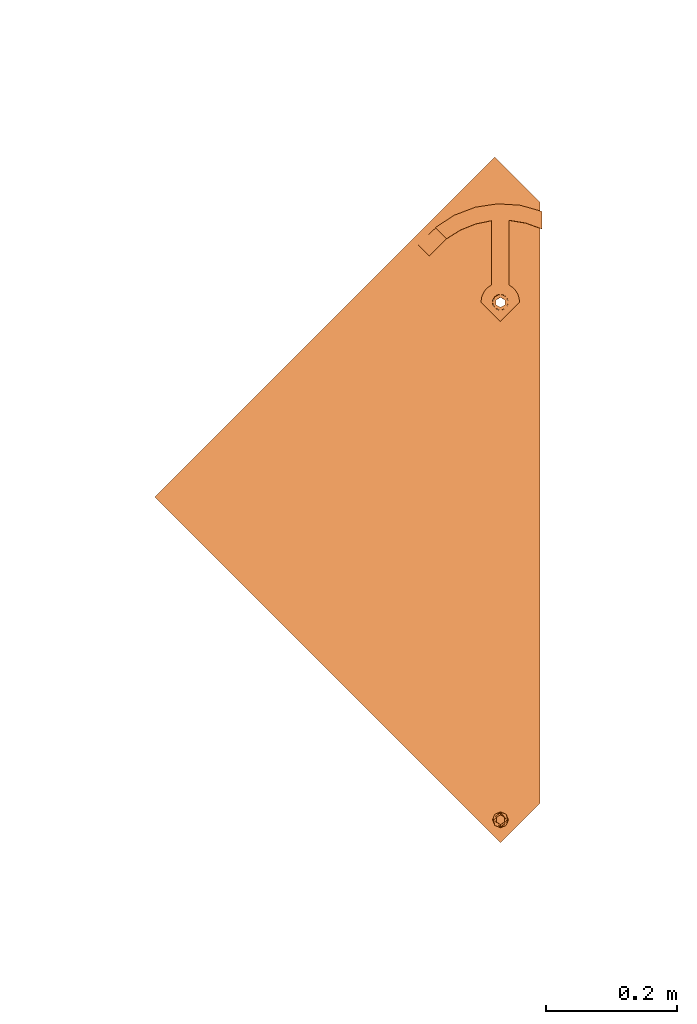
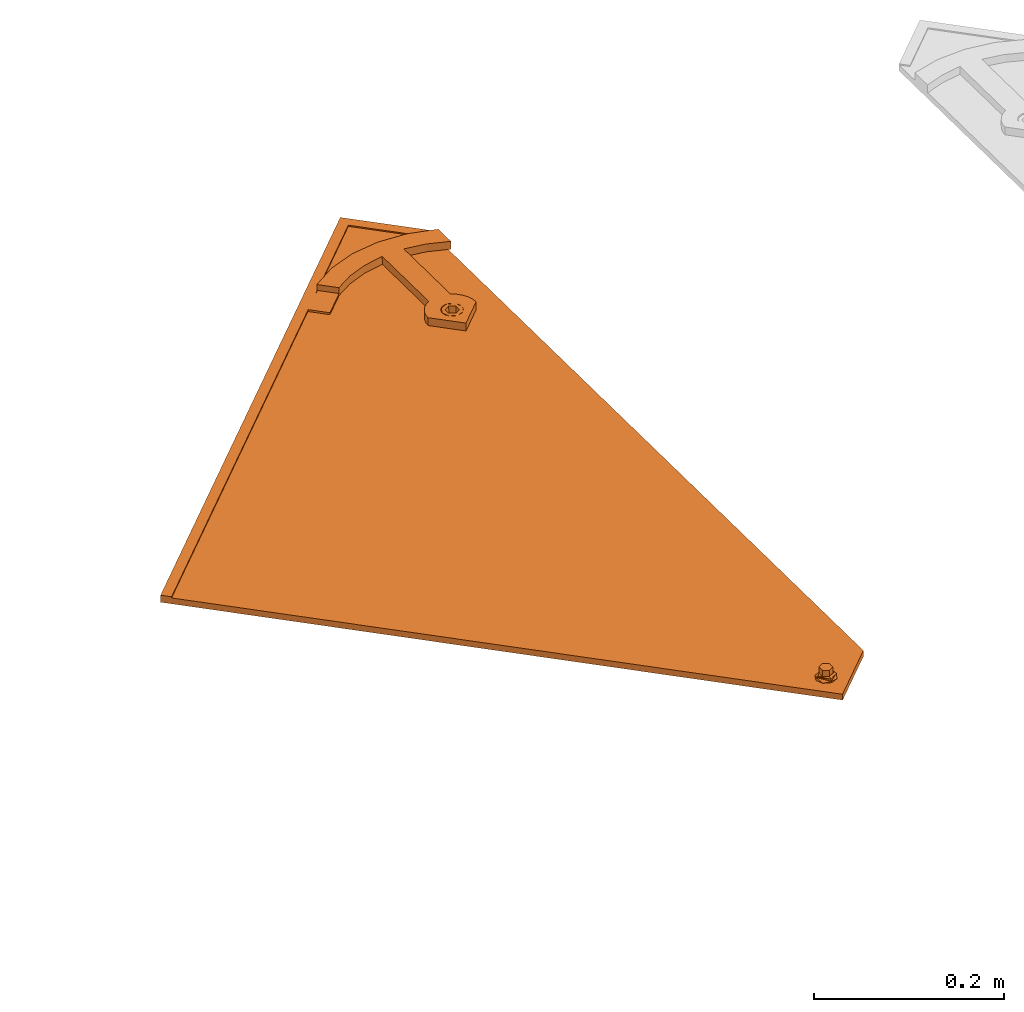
# One storey, part 93 of 133: 1 proxy.
"""IFC2X3 building model written with IfcOpenShell, lengths in millimetres."""

from ifc_helpers import new_model, entity, si_unit, converted_unit, derived_unit, direction, frame, origin, place, context, subcontext, project, spatial, faceted_brep, source, transform, mapped, material, material_list, type_object, type_shapes, element, save


model = new_model("IFC2X3")

# Units and contexts
model_context = context("Model", 3, precision=0.01, world=origin(), true_north=direction((6.12303176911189e-17, 1.0)))
body_context = subcontext(model_context, "Body", "Model", "MODEL_VIEW")
ifc_project = project(units=[si_unit("LENGTHUNIT", "METRE", prefix="MILLI"), si_unit("AREAUNIT", "SQUARE_METRE"), si_unit("VOLUMEUNIT", "CUBIC_METRE"), converted_unit("PLANEANGLEUNIT", "DEGREE", entity("IfcRatioMeasure", 0.0174532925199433), si_unit("PLANEANGLEUNIT", "RADIAN"), dimensions=[0, 0, 0, 0, 0, 0, 0]), si_unit("MASSUNIT", "GRAM", prefix="KILO"), derived_unit("MASSDENSITYUNIT", [(si_unit("MASSUNIT", "GRAM", prefix="KILO"), 1), (si_unit("LENGTHUNIT", "METRE"), -3)]), si_unit("TIMEUNIT", "SECOND"), si_unit("FREQUENCYUNIT", "HERTZ"), si_unit("THERMODYNAMICTEMPERATUREUNIT", "DEGREE_CELSIUS"), derived_unit("THERMALTRANSMITTANCEUNIT", [(si_unit("MASSUNIT", "GRAM", prefix="KILO"), 1), (si_unit("THERMODYNAMICTEMPERATUREUNIT", "KELVIN"), -1), (si_unit("TIMEUNIT", "SECOND"), -3)]), derived_unit("VOLUMETRICFLOWRATEUNIT", [(si_unit("LENGTHUNIT", "METRE"), 3), (si_unit("TIMEUNIT", "SECOND"), -1)]), si_unit("ELECTRICCURRENTUNIT", "AMPERE"), si_unit("ELECTRICVOLTAGEUNIT", "VOLT"), si_unit("POWERUNIT", "WATT"), si_unit("FORCEUNIT", "NEWTON", prefix="KILO"), si_unit("ILLUMINANCEUNIT", "LUX"), si_unit("LUMINOUSFLUXUNIT", "LUMEN"), si_unit("LUMINOUSINTENSITYUNIT", "CANDELA"), derived_unit("USERDEFINED", [(si_unit("MASSUNIT", "GRAM", prefix="KILO"), -1), (si_unit("LENGTHUNIT", "METRE"), -2), (si_unit("TIMEUNIT", "SECOND"), 3), (si_unit("LUMINOUSFLUXUNIT", "LUMEN"), 1)]), derived_unit("LINEARVELOCITYUNIT", [(si_unit("LENGTHUNIT", "METRE"), 1), (si_unit("TIMEUNIT", "SECOND"), -1)]), si_unit("PRESSUREUNIT", "PASCAL"), derived_unit("USERDEFINED", [(si_unit("LENGTHUNIT", "METRE"), -2), (si_unit("MASSUNIT", "GRAM", prefix="KILO"), 1), (si_unit("TIMEUNIT", "SECOND"), -2)])], contexts=[model_context])

# Site, building, storey
site_placement = place(None, origin())
site = spatial("IfcSite", under=ifc_project, at=site_placement, Name="Default", CompositionType="ELEMENT")
building_placement = place(site_placement, origin())
building = spatial("IfcBuilding", under=site, at=building_placement, CompositionType="ELEMENT")
storey_placement = place(building_placement, origin())
storey = spatial("IfcBuildingStorey", under=building, at=storey_placement, Name="Level 1", CompositionType="ELEMENT", Elevation=0.0)

# Proxy
ifc_material_1 = material(Name="Rubber - Sunstyle - Black")
ifc_material_2 = material(Name="Glass - Sunstyle - Tainted Black")
ifc_material_list_1 = material_list([ifc_material_1, ifc_material_2])
ifc_material_list_2 = material_list([ifc_material_1, ifc_material_2])
building_element_proxy_type = type_object("IfcBuildingElementProxyType", Name="Shingle Right - Black", PredefinedType="NOTDEFINED", material=ifc_material_list_2)
shared_shape = source(origin(), body_context, "Body", "Brep", [
    faceted_brep([(526.70519509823, 41.3127833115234, 3.87722628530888), (520.930992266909, 37.9795131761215, 3.9330502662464), (520.930992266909, 38.34782226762, 25.9249196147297), (526.70519509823, 41.6810924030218, 25.8690956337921), (520.930992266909, 31.3129729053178, 4.0446982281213), (520.930992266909, 31.6812819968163, 26.0365675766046), (526.70519509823, 27.979702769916, 4.1005222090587), (526.70519509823, 28.3480118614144, 26.092391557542), (532.47939792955, 31.3129729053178, 4.04469822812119), (532.47939792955, 31.6812819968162, 26.0365675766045), (532.47939792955, 37.9795131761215, 3.93305026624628), (532.47939792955, 38.3478222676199, 25.9249196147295), (518.101490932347, 26.4120542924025, 26.1248140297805), (526.70519509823, 22.8487830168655, 26.1844899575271), (514.537719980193, 35.0145521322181, 25.9807435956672), (518.101490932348, 43.6170499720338, 25.8366731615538), (526.70519509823, 47.1803212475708, 25.776997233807), (535.308899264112, 43.6170499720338, 25.8366731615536), (538.872670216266, 35.0145521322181, 25.9807435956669), (535.308899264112, 26.4120542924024, 26.1248140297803), (515.380950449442, 37.3096292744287, 28.2935855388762), (516.94872054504, 35.0855670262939, 30.2210682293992), (526.70519509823, 42.3986422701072, 30.8537686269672), (526.70519509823, 43.6391399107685, 30.2734219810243), (526.70519509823, 45.7966907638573, 29.2640469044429), (526.70519509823, 23.4048270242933, 27.4595479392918), (526.70519509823, 24.3484036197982, 29.6232523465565), (526.70519509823, 27.7977793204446, 31.0982967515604), (526.70519509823, 46.6672851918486, 27.0699596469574), (520.381949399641, 31.4479950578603, 31.0371647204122), (520.381949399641, 38.7484265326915, 30.9149006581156), (538.029439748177, 32.7982090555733, 28.3691406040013), (536.554075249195, 34.0111605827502, 30.1422000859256), (533.028440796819, 38.7484265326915, 30.9149006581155), (533.028440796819, 31.4479950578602, 31.0371647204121), (520.381949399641, 31.5820235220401, 39.0400528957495), (526.70519509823, 27.9318077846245, 39.1011849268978), (526.70519509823, 35.2322392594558, 38.9789208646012), (520.381949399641, 38.8824549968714, 38.9177888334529), (533.028440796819, 31.5820235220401, 39.0400528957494), (533.028440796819, 38.8824549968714, 38.9177888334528), (526.70519509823, 42.532670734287, 38.8566568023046), (526.70519509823, 34.6462430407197, 3.98887424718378)], [[[0, 1, 2, 3]], [[1, 4, 5, 2]], [[4, 6, 7, 5]], [[6, 8, 9, 7]], [[8, 10, 11, 9]], [[10, 0, 3, 11]], [[12, 7, 13]], [[7, 12, 5]], [[14, 5, 12]], [[5, 14, 2]], [[15, 2, 14]], [[3, 2, 15]], [[15, 16, 3]], [[16, 17, 3]], [[11, 3, 17]], [[11, 17, 18]], [[9, 11, 18]], [[18, 19, 9]], [[7, 9, 19]], [[19, 13, 7]], [[20, 14, 12]], [[21, 22, 23, 24]], [[24, 20, 21]], [[25, 20, 12]], [[26, 27, 21]], [[15, 14, 20]], [[12, 13, 25]], [[20, 28, 15]], [[28, 20, 24]], [[21, 27, 29]], [[21, 29, 30]], [[26, 21, 20]], [[20, 25, 26]], [[15, 28, 16]], [[21, 30, 22]], [[31, 18, 17]], [[28, 31, 17]], [[32, 27, 26]], [[26, 31, 32]], [[26, 25, 31]], [[25, 19, 31]], [[17, 16, 28]], [[31, 19, 18]], [[24, 31, 28]], [[33, 34, 32]], [[23, 22, 33]], [[24, 32, 31]], [[27, 32, 34]], [[32, 23, 33]], [[19, 25, 13]], [[32, 24, 23]], [[35, 36, 37]], [[37, 38, 35]], [[36, 39, 37]], [[40, 37, 39]], [[37, 40, 41]], [[37, 41, 38]], [[42, 6, 4]], [[4, 1, 42]], [[1, 0, 42]], [[42, 8, 6]], [[0, 10, 42]], [[8, 42, 10]], [[22, 30, 38, 41]], [[30, 29, 35, 38]], [[29, 27, 36, 35]], [[27, 34, 39, 36]], [[34, 33, 40, 39]], [[33, 22, 41, 40]]]),
    faceted_brep([(526.70519509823, 811.19100538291, 21.4210230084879), (526.70519509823, 815.690374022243, 21.3456697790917), (518.101490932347, 814.754276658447, 21.3613470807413), (535.308899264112, 814.754276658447, 21.3613470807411), (533.345423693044, 819.523574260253, 21.2814732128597), (538.872670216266, 823.356774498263, 21.2172766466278), (533.345423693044, 827.189974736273, 21.1530800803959), (535.308899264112, 831.959272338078, 21.0732062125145), (526.70519509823, 831.023174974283, 21.0888835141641), (526.70519509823, 835.522543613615, 21.0135302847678), (518.101490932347, 831.959272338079, 21.0732062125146), (520.064966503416, 827.189974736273, 21.1530800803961), (514.537719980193, 823.356774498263, 21.217276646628), (520.064966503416, 819.523574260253, 21.2814732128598), (520.064966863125, 826.922051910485, 5.15532344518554), (526.70519509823, 830.755251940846, 5.09112688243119), (520.064966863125, 819.255651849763, 5.2837165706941), (526.70519509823, 815.422451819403, 5.34791313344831), (533.345423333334, 819.255651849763, 5.28371657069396), (533.345423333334, 826.922051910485, 5.1553234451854), (518.101490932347, 814.486354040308, 5.36359044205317), (526.70519509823, 810.923082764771, 5.4232663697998), (514.537719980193, 823.088851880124, 5.21952000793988), (518.101490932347, 831.69134971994, 5.07544957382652), (526.70519509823, 835.254620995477, 5.01577364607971), (535.308899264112, 831.69134971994, 5.07544957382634), (538.872670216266, 823.088851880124, 5.21952000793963), (535.308899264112, 814.486354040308, 5.36359044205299)], [[[0, 1, 2]], [[1, 0, 3]], [[3, 4, 1]], [[4, 3, 5]], [[6, 4, 5]], [[5, 7, 6]], [[7, 8, 6]], [[8, 7, 9]], [[8, 9, 10]], [[10, 11, 8]], [[12, 11, 10]], [[2, 13, 12]], [[12, 13, 11]], [[13, 2, 1]], [[8, 11, 14, 15]], [[11, 13, 16, 14]], [[13, 1, 17, 16]], [[1, 4, 18, 17]], [[4, 6, 19, 18]], [[6, 8, 15, 19]], [[20, 17, 21]], [[17, 20, 16]], [[22, 16, 20]], [[14, 16, 22]], [[23, 14, 22]], [[15, 14, 23]], [[23, 24, 15]], [[24, 25, 15]], [[19, 15, 25]], [[19, 25, 26]], [[26, 18, 19]], [[26, 27, 18]], [[17, 18, 27]], [[27, 21, 17]], [[24, 23, 10, 9]], [[10, 23, 22, 12]], [[20, 21, 0, 2]], [[20, 2, 12, 22]], [[21, 27, 3, 0]], [[3, 27, 26, 5]], [[25, 24, 9, 7]], [[25, 7, 5, 26]]]),
    faceted_brep([(578.30986553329, 967.15023469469, 8.79467739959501), (586.794551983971, 975.634921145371, 8.65258001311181), (586.794551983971, 975.660038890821, 10.1523696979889), (578.30986553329, 967.17535244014, 10.294467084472), (517.891471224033, 1027.55168765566, 7.7831033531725), (8.48468645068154, 518.287740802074, 16.3120073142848), (0.0, 526.772427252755, 16.1699099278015), (517.891471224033, 1044.51868144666, 7.49894842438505), (517.891471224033, 1044.54379919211, 8.99873810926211), (0.0, 526.797544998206, 17.6696996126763), (8.4846864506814, 518.312858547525, 17.8117969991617), (517.891471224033, 1027.57680540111, 9.28289303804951)], [[[0, 1, 2, 3]], [[1, 0, 4, 5, 6, 7]], [[2, 1, 7, 8]], [[3, 2, 8, 9, 10, 11]], [[0, 3, 11, 4]], [[5, 10, 9, 6]], [[8, 7, 6, 9]], [[4, 11, 10, 5]]]),
    faceted_brep([(586.794551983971, 975.634921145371, 8.65258001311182), (517.891471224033, 1044.51868144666, 7.49894842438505), (523.812678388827, 834.561085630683, 11.0152157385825), (526.918506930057, 834.969918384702, 11.0083688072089), (530.024335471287, 834.561085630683, 11.0152157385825), (532.918506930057, 833.362448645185, 11.0352899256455), (535.403788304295, 831.455692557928, 11.0672233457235), (537.31081177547, 828.970759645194, 11.1088397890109), (538.509616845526, 826.076993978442, 11.1573031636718), (538.918506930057, 822.971600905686, 11.2093107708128), (538.509616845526, 819.86620783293, 11.2613183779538), (586.79455198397, 60.1087646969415, 23.9853651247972), (520.918506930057, 833.362448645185, 11.0352899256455), (518.433225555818, 831.455692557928, 11.0672233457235), (516.526202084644, 828.970759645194, 11.1088397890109), (515.327397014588, 826.076993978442, 11.1573031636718), (0.0, 526.772427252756, 16.1699099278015), (514.918506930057, 822.971600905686, 11.2093107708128), (515.327397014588, 819.86620783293, 11.2613183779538), (516.526202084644, 816.972442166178, 11.3097817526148), (518.433225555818, 814.487509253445, 11.3513981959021), (520.918506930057, 812.580753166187, 11.3833316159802), (523.812678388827, 811.382116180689, 11.4034058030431), (524.667140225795, 42.642731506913, 24.2778777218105), (522.737692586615, 41.8436401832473, 24.2912605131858), (521.080838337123, 40.572469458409, 24.3125494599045), (519.80948935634, 38.9158475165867, 24.3402937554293), (519.010285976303, 36.9866704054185, 24.37260267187), (518.737692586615, 34.9164083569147, 24.407274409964), (519.010285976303, 32.8461463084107, 24.441946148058), (526.794551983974, 0.125588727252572, 24.989934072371), (519.80948935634, 30.9169691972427, 24.4742550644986), (533.665895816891, 30.9169691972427, 24.4742550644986), (532.394546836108, 29.2603472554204, 24.5019993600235), (530.737692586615, 27.9891765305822, 24.5232883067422), (528.808244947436, 27.1900852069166, 24.5366710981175), (526.737692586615, 26.9175300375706, 24.5412357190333), (524.667140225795, 27.1900852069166, 24.5366710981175), (522.737692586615, 27.9891765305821, 24.5232883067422), (521.080838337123, 29.2603472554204, 24.5019993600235), (526.737692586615, 42.9152866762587, 24.2733131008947), (528.808244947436, 42.6427315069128, 24.2778777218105), (530.737692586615, 41.8436401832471, 24.2912605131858), (532.394546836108, 40.572469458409, 24.3125494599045), (533.665895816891, 38.9158475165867, 24.3402937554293), (534.465099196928, 36.9866704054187, 24.37260267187), (534.737692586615, 34.9164083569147, 24.407274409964), (534.465099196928, 32.8461463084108, 24.441946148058), (526.918506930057, 810.97328342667, 11.4102527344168), (537.31081177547, 816.972442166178, 11.3097817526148), (535.403788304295, 814.487509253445, 11.3513981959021), (532.918506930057, 812.580753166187, 11.3833316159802), (530.024335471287, 811.382116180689, 11.4034058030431), (0.0, 526.646838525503, 8.67096150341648), (519.80948935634, 38.790258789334, 16.8413453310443), (519.010285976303, 36.8610816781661, 16.8736542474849), (521.080838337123, 40.4468807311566, 16.8136010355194), (518.737692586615, 34.7908196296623, 16.9083259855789), (519.010285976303, 32.7205575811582, 16.9429977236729), (526.794551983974, 0.0, 17.4909856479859), (522.737692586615, 41.7180514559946, 16.7923120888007), (524.667140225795, 42.5171427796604, 16.7789292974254), (523.812678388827, 811.256527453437, 3.90445737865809), (520.918506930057, 812.455164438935, 3.88438319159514), (518.433225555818, 814.361920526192, 3.85244977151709), (516.526202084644, 816.846853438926, 3.81083332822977), (515.327397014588, 819.740619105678, 3.76236995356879), (514.918506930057, 822.846012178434, 3.71036234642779), (515.327397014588, 825.95140525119, 3.65835473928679), (517.891471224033, 1044.39309271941, 0.0), (516.526202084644, 828.845170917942, 3.60989136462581), (518.433225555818, 831.330103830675, 3.56827492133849), (520.918506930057, 833.236859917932, 3.53634150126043), (523.812678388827, 834.435496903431, 3.51626731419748), (586.794551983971, 975.509332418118, 1.15363158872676), (526.918506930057, 834.84432965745, 3.50942038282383), (530.024335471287, 834.435496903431, 3.51626731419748), (532.918506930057, 833.236859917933, 3.53634150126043), (535.403788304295, 831.330103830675, 3.56827492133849), (537.31081177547, 828.845170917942, 3.60989136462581), (538.509616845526, 825.95140525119, 3.65835473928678), (538.918506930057, 822.846012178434, 3.71036234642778), (538.509616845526, 819.740619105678, 3.76236995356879), (586.79455198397, 59.983175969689, 16.4864167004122), (526.737692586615, 42.7896979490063, 16.7743646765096), (528.808244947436, 42.5171427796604, 16.7789292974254), (530.737692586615, 41.7180514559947, 16.7923120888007), (532.394546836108, 40.4468807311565, 16.8136010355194), (533.665895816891, 30.7913804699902, 16.9753066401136), (534.465099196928, 32.7205575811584, 16.9429977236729), (534.737692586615, 34.7908196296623, 16.9083259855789), (534.465099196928, 36.8610816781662, 16.8736542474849), (533.665895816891, 38.7902587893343, 16.8413453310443), (526.918506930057, 810.847694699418, 3.91130431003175), (530.024335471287, 811.256527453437, 3.90445737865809), (532.918506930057, 812.455164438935, 3.88438319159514), (535.403788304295, 814.361920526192, 3.85244977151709), (537.31081177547, 816.846853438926, 3.81083332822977), (519.80948935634, 30.7913804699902, 16.9753066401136), (521.080838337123, 29.134758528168, 17.0030509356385), (522.737692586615, 27.8635878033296, 17.0243398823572), (524.667140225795, 27.0644964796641, 17.0377226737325), (526.737692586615, 26.7919413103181, 17.0422872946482), (528.808244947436, 27.0644964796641, 17.0377226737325), (530.737692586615, 27.8635878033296, 17.0243398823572), (532.394546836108, 29.1347585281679, 17.0030509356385)], [[[0, 1, 2]], [[0, 2, 3]], [[3, 4, 0]], [[4, 5, 0]], [[0, 5, 6]], [[6, 7, 0]], [[7, 8, 0]], [[8, 9, 0]], [[9, 10, 0]], [[0, 10, 11]], [[2, 1, 12]], [[13, 12, 1]], [[14, 13, 1]], [[14, 1, 15]], [[15, 1, 16]], [[16, 17, 15]], [[17, 16, 18]], [[19, 18, 16]], [[19, 16, 20]], [[21, 20, 16]], [[22, 21, 16]], [[23, 22, 16]], [[24, 23, 16]], [[16, 25, 24]], [[25, 16, 26]], [[26, 16, 27]], [[28, 27, 16]], [[28, 16, 29]], [[29, 16, 30]], [[30, 31, 29]], [[11, 32, 30]], [[30, 32, 33]], [[34, 30, 33]], [[34, 35, 30]], [[36, 30, 35]], [[30, 36, 37]], [[37, 38, 30]], [[38, 39, 30]], [[39, 31, 30]], [[23, 11, 22]], [[11, 23, 40]], [[11, 40, 41]], [[11, 41, 42]], [[42, 43, 11]], [[44, 11, 43]], [[44, 45, 11]], [[45, 46, 11]], [[47, 11, 46]], [[11, 47, 32]], [[22, 11, 48]], [[10, 49, 11]], [[49, 50, 11]], [[50, 51, 11]], [[51, 52, 11]], [[52, 48, 11]], [[53, 54, 55]], [[54, 53, 56]], [[53, 55, 57]], [[57, 58, 53]], [[53, 58, 59]], [[60, 56, 53]], [[61, 60, 53]], [[61, 53, 62]], [[62, 53, 63]], [[53, 64, 63]], [[64, 53, 65]], [[65, 53, 66]], [[66, 53, 67]], [[67, 53, 68]], [[53, 69, 68]], [[70, 68, 69]], [[71, 70, 69]], [[69, 72, 71]], [[73, 72, 69]], [[73, 69, 74]], [[75, 73, 74]], [[75, 74, 76]], [[77, 76, 74]], [[74, 78, 77]], [[79, 78, 74]], [[80, 79, 74]], [[80, 74, 81]], [[81, 74, 82]], [[82, 74, 83]], [[84, 61, 83]], [[83, 85, 84]], [[86, 85, 83]], [[83, 87, 86]], [[59, 88, 83]], [[83, 88, 89]], [[90, 83, 89]], [[90, 91, 83]], [[91, 92, 83]], [[87, 83, 92]], [[62, 83, 61]], [[93, 83, 62]], [[83, 93, 94]], [[94, 95, 83]], [[83, 95, 96]], [[96, 97, 83]], [[97, 82, 83]], [[59, 58, 98]], [[99, 59, 98]], [[99, 100, 59]], [[100, 101, 59]], [[102, 59, 101]], [[59, 102, 103]], [[59, 103, 104]], [[104, 105, 59]], [[105, 88, 59]], [[16, 1, 69, 53]], [[30, 16, 53, 59]], [[11, 30, 59, 83]], [[1, 0, 74, 69]], [[28, 57, 55, 27]], [[27, 55, 54, 26]], [[24, 25, 56, 60]], [[56, 25, 26, 54]], [[23, 24, 60, 61]], [[23, 61, 84, 40]], [[40, 84, 85, 41]], [[41, 85, 86, 42]], [[44, 43, 87, 92]], [[87, 43, 42, 86]], [[45, 44, 92, 91]], [[45, 91, 90, 46]], [[46, 90, 89, 47]], [[47, 89, 88, 32]], [[34, 33, 105, 104]], [[105, 33, 32, 88]], [[35, 34, 104, 103]], [[35, 103, 102, 36]], [[36, 102, 101, 37]], [[37, 101, 100, 38]], [[31, 39, 99, 98]], [[39, 38, 100, 99]], [[58, 29, 31, 98]], [[29, 58, 57, 28]], [[17, 67, 68, 15]], [[15, 68, 70, 14]], [[12, 13, 71, 72]], [[71, 13, 14, 70]], [[2, 12, 72, 73]], [[2, 73, 75, 3]], [[3, 75, 76, 4]], [[4, 76, 77, 5]], [[7, 6, 78, 79]], [[78, 6, 5, 77]], [[8, 7, 79, 80]], [[8, 80, 81, 9]], [[9, 81, 82, 10]], [[10, 82, 97, 49]], [[51, 50, 96, 95]], [[96, 50, 49, 97]], [[52, 51, 95, 94]], [[52, 94, 93, 48]], [[48, 93, 62, 22]], [[22, 62, 63, 21]], [[19, 20, 64, 65]], [[64, 20, 21, 63]], [[18, 19, 65, 66]], [[18, 66, 67, 17]], [[0, 11, 83, 74]]]),
    faceted_brep([(503.195324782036, 841.557074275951, 20.8994526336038), (517.914693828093, 832.008099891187, 21.0593741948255), (507.695869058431, 846.190079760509, 20.8218613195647), (516.007670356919, 829.523166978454, 21.1009906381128), (499.815755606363, 836.052923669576, 20.9916334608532), (514.808865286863, 826.629401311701, 21.1494540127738), (497.720422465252, 829.943523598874, 21.0939507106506), (514.399975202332, 823.524008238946, 21.2014616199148), (497.010547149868, 823.524008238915, 21.2014616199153), (514.808865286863, 820.41861516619, 21.2534692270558), (516.007670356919, 817.524849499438, 21.3019326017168), (517.914693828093, 815.039916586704, 21.3435490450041), (526.399975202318, 794.138700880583, 21.6935924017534), (520.399975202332, 813.133160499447, 21.3754824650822), (523.294146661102, 811.934523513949, 21.3955566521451), (526.399975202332, 811.52569075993, 21.4024035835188), (529.505803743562, 811.934523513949, 21.3955566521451), (532.399975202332, 813.133160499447, 21.3754824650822), (534.885256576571, 815.039916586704, 21.3435490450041), (555.789403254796, 823.524008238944, 21.2014616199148), (536.792280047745, 817.524849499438, 21.3019326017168), (537.991085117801, 820.41861516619, 21.2534692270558), (538.399975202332, 823.524008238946, 21.2014616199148), (555.079527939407, 829.943523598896, 21.0939507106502), (537.991085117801, 826.629401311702, 21.1494540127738), (552.984194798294, 836.052923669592, 20.9916334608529), (536.792280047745, 829.523166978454, 21.1009906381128), (549.604625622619, 841.557074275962, 20.8994526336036), (534.88525657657, 832.008099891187, 21.0593741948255), (545.104081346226, 846.190079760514, 20.8218613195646), (532.399975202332, 833.914855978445, 21.0274407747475), (539.69997520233, 849.728127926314, 20.7626078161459), (529.505803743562, 835.113492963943, 21.0073665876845), (526.399975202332, 835.522325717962, 21.0005196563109), (513.09997520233, 849.728127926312, 20.762607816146), (513.099975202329, 947.789128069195, 19.1203300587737), (539.699975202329, 948.373752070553, 19.1105390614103), (522.252457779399, 973.425526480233, 18.6909841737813), (556.520926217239, 971.308509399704, 18.7264389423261), (565.239246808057, 944.126992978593, 19.1816617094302), (589.568348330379, 961.999667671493, 18.8823388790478), (589.568348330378, 935.274464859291, 19.3299195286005), (488.310294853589, 968.25512753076, 18.7775754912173), (488.729131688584, 942.717602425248, 19.2052654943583), (456.227055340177, 956.030775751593, 18.9823029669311), (465.633151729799, 933.432284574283, 19.3607714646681), (444.534595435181, 920.223666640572, 19.5819829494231), (427.451419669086, 937.304447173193, 19.2959223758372), (520.399975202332, 833.914855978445, 21.0274407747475), (523.294146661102, 835.113492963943, 21.0073665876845), (526.399975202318, 793.971249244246, 11.6949945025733), (526.399975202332, 811.358239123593, 11.4038056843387), (529.505803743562, 811.767071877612, 11.396958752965), (523.294146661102, 811.767071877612, 11.396958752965), (532.399975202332, 812.96570886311, 11.3768845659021), (534.885256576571, 814.872464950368, 11.344951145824), (555.789403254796, 823.356556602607, 11.2028637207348), (520.399975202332, 812.96570886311, 11.3768845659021), (517.914693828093, 814.872464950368, 11.344951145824), (497.010547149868, 823.356556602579, 11.2028637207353), (516.007670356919, 817.357397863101, 11.3033347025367), (514.808865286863, 820.251163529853, 11.2548713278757), (514.399975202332, 823.356556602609, 11.2028637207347), (497.720422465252, 829.776071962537, 11.0953528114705), (514.808865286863, 826.461949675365, 11.1508561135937), (499.815755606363, 835.885472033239, 10.9930355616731), (516.007670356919, 829.355715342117, 11.1023927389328), (503.195324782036, 841.389622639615, 10.9008547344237), (517.914693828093, 831.84064825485, 11.0607762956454), (507.695869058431, 846.022628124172, 10.8232634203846), (520.399975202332, 833.747404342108, 11.0288428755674), (513.09997520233, 849.560676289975, 10.7640099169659), (523.294146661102, 834.946041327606, 11.0087686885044), (526.399975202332, 835.354874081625, 11.0019217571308), (539.69997520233, 849.560676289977, 10.7640099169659), (513.099975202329, 947.621676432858, 9.12173215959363), (539.69997520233, 948.206300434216, 9.11194116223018), (522.252457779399, 973.258074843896, 8.69238627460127), (488.310294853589, 968.087675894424, 8.77897759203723), (488.729131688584, 942.550150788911, 9.20666759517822), (456.227055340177, 955.863324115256, 8.98370506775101), (465.633151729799, 933.264832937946, 9.36217356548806), (444.533467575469, 920.055518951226, 9.58339670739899), (428.044288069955, 936.544210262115, 9.30725215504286), (421.793762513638, 931.184466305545, 9.39701453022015), (415.826529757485, 925.515365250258, 9.49195786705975), (418.207622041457, 893.733364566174, 10.0242272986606), (401.122816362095, 910.815774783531, 9.73813943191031), (427.451419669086, 937.136995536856, 9.29732447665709), (556.520926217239, 971.141057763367, 8.727841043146), (565.239246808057, 943.959541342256, 9.18306381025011), (589.568348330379, 961.832216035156, 8.88374097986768), (589.568348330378, 935.107013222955, 9.33132162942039), (529.505803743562, 834.946041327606, 11.0087686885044), (532.399975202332, 833.747404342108, 11.0288428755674), (545.104081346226, 846.022628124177, 10.8232634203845), (534.88525657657, 831.84064825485, 11.0607762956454), (549.604625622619, 841.389622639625, 10.9008547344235), (536.792280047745, 829.355715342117, 11.1023927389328), (552.984194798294, 835.885472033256, 10.9930355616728), (537.991085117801, 826.461949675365, 11.1508561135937), (555.079527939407, 829.77607196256, 11.0953528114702), (538.399975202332, 823.356556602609, 11.2028637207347), (537.991085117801, 820.251163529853, 11.2548713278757), (536.792280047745, 817.357397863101, 11.3033347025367), (415.826529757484, 925.557228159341, 11.9916073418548), (401.122816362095, 910.857637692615, 12.2377889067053), (418.207622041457, 893.775227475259, 12.5238767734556), (444.534595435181, 920.09807791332, 12.083034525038), (428.042008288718, 936.584216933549, 11.8069327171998), (421.793762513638, 931.226329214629, 11.8966640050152)], [[[0, 1, 2]], [[3, 1, 0]], [[4, 3, 0]], [[5, 3, 4]], [[4, 6, 5]], [[6, 7, 5]], [[7, 6, 8]], [[9, 7, 8]], [[10, 9, 8]], [[10, 8, 11]], [[8, 12, 11]], [[13, 11, 12]], [[13, 12, 14]], [[12, 15, 14]], [[15, 12, 16]], [[16, 12, 17]], [[18, 17, 12]], [[18, 12, 19]], [[19, 20, 18]], [[21, 20, 19]], [[22, 21, 19]], [[19, 23, 22]], [[24, 22, 23]], [[23, 25, 24]], [[25, 26, 24]], [[26, 25, 27]], [[28, 26, 27]], [[27, 29, 28]], [[30, 28, 29]], [[29, 31, 30]], [[30, 31, 32]], [[32, 31, 33]], [[31, 34, 33]], [[35, 34, 31]], [[35, 31, 36]], [[36, 37, 35]], [[36, 38, 37]], [[39, 38, 36]], [[38, 39, 40]], [[41, 40, 39]], [[37, 42, 35]], [[35, 42, 43]], [[43, 42, 44]], [[44, 45, 43]], [[44, 46, 45]], [[46, 44, 47]], [[48, 34, 2]], [[48, 49, 34]], [[34, 49, 33]], [[48, 2, 1]], [[50, 51, 52]], [[51, 50, 53]], [[50, 52, 54]], [[54, 55, 50]], [[50, 55, 56]], [[57, 53, 50]], [[58, 57, 50]], [[58, 50, 59]], [[59, 60, 58]], [[60, 59, 61]], [[61, 59, 62]], [[63, 62, 59]], [[64, 62, 63]], [[63, 65, 64]], [[64, 65, 66]], [[65, 67, 66]], [[68, 66, 67]], [[69, 68, 67]], [[69, 70, 68]], [[70, 69, 71]], [[71, 72, 70]], [[71, 73, 72]], [[74, 73, 71]], [[71, 75, 74]], [[75, 76, 74]], [[76, 75, 77]], [[77, 75, 78]], [[79, 78, 75]], [[80, 78, 79]], [[79, 81, 80]], [[81, 82, 80]], [[82, 83, 80]], [[84, 83, 82]], [[84, 82, 85]], [[82, 86, 85]], [[86, 87, 85]], [[83, 88, 80]], [[76, 77, 89]], [[89, 90, 76]], [[90, 89, 91]], [[91, 92, 90]], [[93, 73, 74]], [[74, 94, 93]], [[94, 74, 95]], [[95, 96, 94]], [[95, 97, 96]], [[96, 97, 98]], [[99, 98, 97]], [[99, 100, 98]], [[101, 100, 99]], [[102, 100, 101]], [[56, 102, 101]], [[103, 102, 56]], [[56, 55, 104]], [[103, 56, 104]], [[34, 35, 75, 71]], [[2, 34, 71, 69]], [[0, 2, 69, 67]], [[67, 65, 4, 0]], [[6, 4, 65, 63]], [[8, 6, 63, 59]], [[12, 8, 59, 50]], [[19, 12, 50, 56]], [[23, 19, 56, 101]], [[25, 23, 101, 99]], [[99, 97, 27, 25]], [[29, 27, 97, 95]], [[31, 29, 95, 74]], [[36, 31, 74, 76]], [[38, 40, 91, 89]], [[37, 38, 89, 77]], [[77, 78, 42, 37]], [[44, 42, 78, 80]], [[47, 44, 80, 88]], [[7, 62, 64, 5]], [[5, 64, 66, 3]], [[48, 1, 68, 70]], [[66, 68, 1, 3]], [[49, 48, 70, 72]], [[73, 33, 49, 72]], [[32, 93, 94, 30]], [[30, 94, 96, 28]], [[24, 26, 98, 100]], [[96, 98, 26, 28]], [[22, 24, 100, 102]], [[32, 33, 73, 93]], [[22, 102, 103, 21]], [[21, 103, 104, 20]], [[17, 18, 55, 54]], [[104, 55, 18, 20]], [[16, 17, 54, 52]], [[51, 15, 16, 52]], [[14, 53, 57, 13]], [[13, 57, 58, 11]], [[9, 10, 60, 61]], [[58, 60, 10, 11]], [[7, 9, 61, 62]], [[14, 15, 51, 53]], [[105, 106, 107, 108, 109, 110]], [[107, 106, 87, 86]], [[108, 107, 82]], [[86, 82, 107]], [[109, 83, 110]], [[110, 83, 84]], [[84, 85, 105, 110]], [[106, 105, 85, 87]], [[46, 47, 109]], [[109, 47, 88]], [[46, 109, 108]], [[83, 109, 88]], [[108, 81, 45, 46]], [[108, 82, 81]], [[79, 75, 35, 43]], [[81, 79, 43, 45]], [[76, 90, 39, 36]], [[92, 41, 39, 90]], [[40, 41, 92, 91]]]),
])
type_shapes(building_element_proxy_type, [shared_shape])
proxy_placement = place(storey_placement, frame((7521.79906706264, 11846.6392944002, 0.129142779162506)))
element("IfcBuildingElementProxy", 1, at=proxy_placement, inside=storey, type_object=building_element_proxy_type, material=ifc_material_list_1, Name="Roofing_Panels_SunStyle_Tile_Shingle-Right:Shingle Right - Black", ObjectType="Roofing_Panels_SunStyle_Tile_Shingle-Right:Shingle Right - Black", context=body_context, shape_type="MappedRepresentation", body=[
    mapped(shared_shape, transform((0.0, 0.0, 0.0), scale=1.0)),
])

save(model, "model.ifc")
